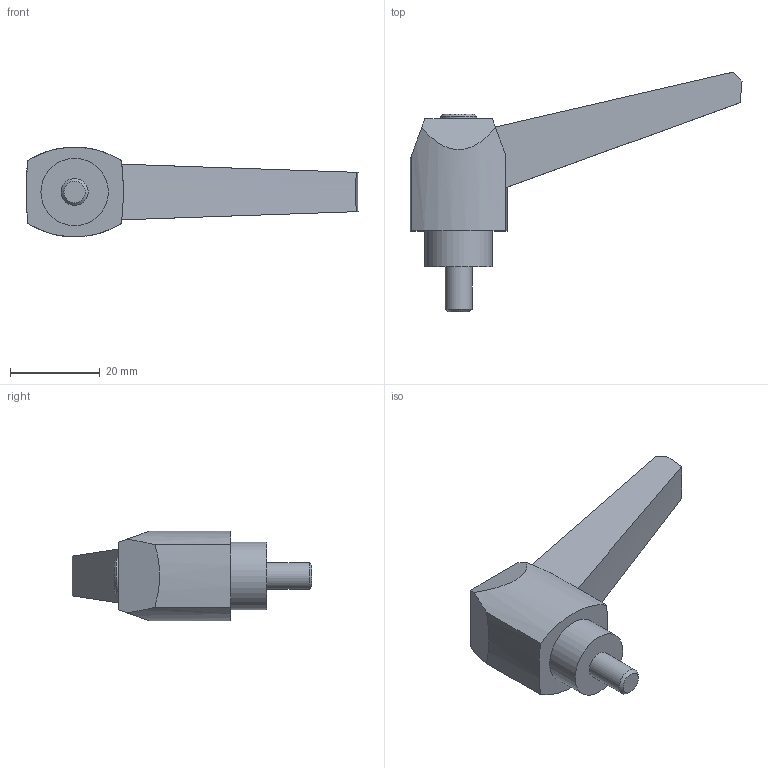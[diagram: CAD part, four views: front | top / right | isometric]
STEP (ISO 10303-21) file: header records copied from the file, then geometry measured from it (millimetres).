
FILE_DESCRIPTION( ( 'STEP AP203' ), '1' );
FILE_NAME( 'C:/Temp/Ganter_Step_05_03_2020/data/2_1/gn_500/gn_500_ms/Adjustable hand lever GN 500-63-M6-10-SW.stp', '2020-03-05T11:26:32', ( 'License CC BY-ND 4.0' ), ( 'CADENAS' ), ' ', 'PARTsolutions', ' ' );
FILE_SCHEMA( ( 'CONFIG_CONTROL_DESIGN' ) );
Length unit declared in the file: millimetre
Products named in the file (1): _Adjustable hand lever GN 500-63-M6-10-SW
Bounding box: 73.9 x 53.35 x 20 mm (x, y, z)
Volume: 16773.7 mm3; surface area: 5156.8 mm2
Topology: 1 solids, 1 shells, 24 faces, 56 edges, 37 vertices
Faces by surface type: plane 11, cylinder 7, cone 6
Full cylindrical faces by diameter (mm): 6 x1, 8 x1, 15 x1
Entity records: 708 total; most frequent: DIRECTION 122, CARTESIAN_POINT 117, ORIENTED_EDGE 100, EDGE_CURVE 50, AXIS2_PLACEMENT_3D 49, VERTEX_POINT 36, EDGE_LOOP 32, FACE_OUTER_BOUND 27
